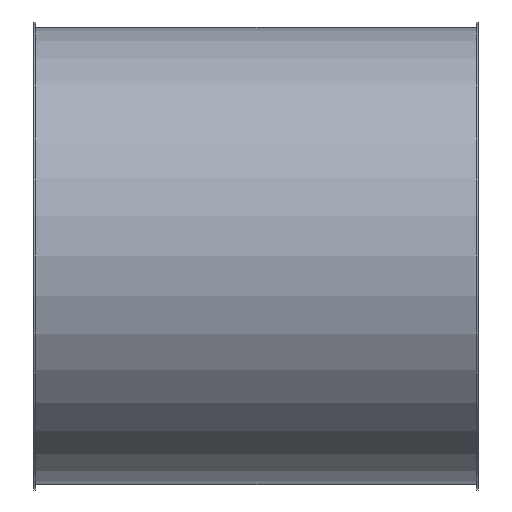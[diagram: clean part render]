
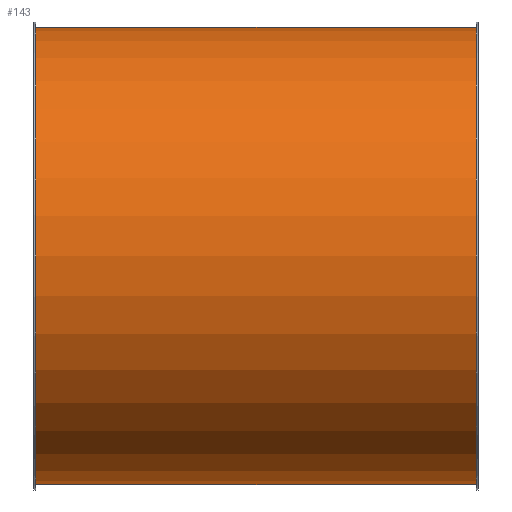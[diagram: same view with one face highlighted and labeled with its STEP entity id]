
A CAD part, front view. The second image highlights one B-rep face of the part: STEP entity #143.
In plain terms, the highlighted cylindrical face has radius 251 mm (diameter 502 mm), a full revolution.
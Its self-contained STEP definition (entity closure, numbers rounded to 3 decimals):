
#112=CARTESIAN_POINT('',(454.119,2.817,0.0));
#113=VERTEX_POINT('',#112);
#114=CARTESIAN_POINT('',(454.119,253.817,0.0));
#115=DIRECTION('',(-1.0,0.0,0.0));
#116=DIRECTION('',(0.0,-1.0,0.0));
#117=AXIS2_PLACEMENT_3D('',#114,#115,#116);
#118=CIRCLE('',#117,251.);
#119=EDGE_CURVE('',#113,#113,#118,.T.);
#124=CARTESIAN_POINT('',(212.119,253.817,0.0));
#125=DIRECTION('',(-1.0,0.,0.0));
#126=DIRECTION('',(0.0,-1.0,0.0));
#127=AXIS2_PLACEMENT_3D('',#124,#125,#126);
#128=CYLINDRICAL_SURFACE('',#127,251.);
#129=CARTESIAN_POINT('',(-29.881,2.817,0.0));
#130=VERTEX_POINT('',#129);
#131=CARTESIAN_POINT('',(-29.881,253.817,0.0));
#132=DIRECTION('',(-1.0,0.0,0.0));
#133=DIRECTION('',(0.0,-1.0,0.0));
#134=AXIS2_PLACEMENT_3D('',#131,#132,#133);
#135=CIRCLE('',#134,251.0);
#136=EDGE_CURVE('',#130,#130,#135,.T.);
#137=ORIENTED_EDGE('',*,*,#136,.F.);
#138=EDGE_LOOP('',(#137));
#139=FACE_OUTER_BOUND('',#138,.T.);
#140=ORIENTED_EDGE('',*,*,#119,.T.);
#141=EDGE_LOOP('',(#140));
#142=FACE_BOUND('',#141,.T.);
#143=ADVANCED_FACE('',(#139,#142),#128,.T.);
